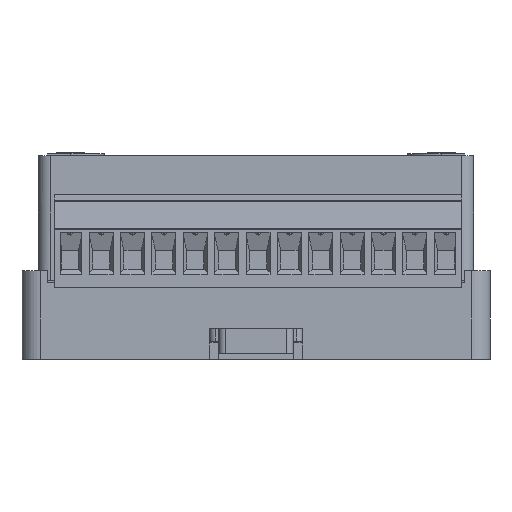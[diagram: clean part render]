
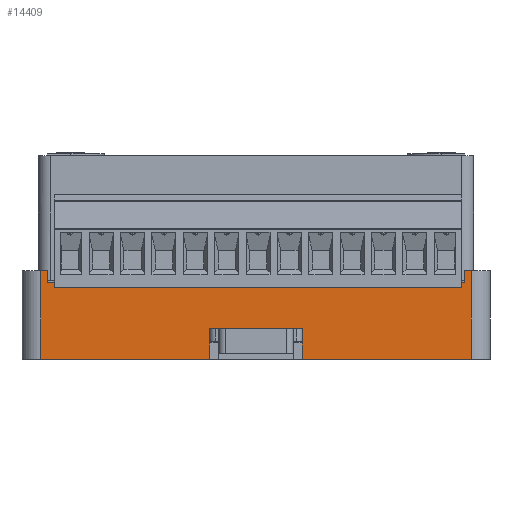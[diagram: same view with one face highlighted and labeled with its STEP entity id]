
A CAD part, front view. The second image highlights one B-rep face of the part: STEP entity #14409.
In plain terms, the highlighted planar face has unit normal (0, -1, 0).
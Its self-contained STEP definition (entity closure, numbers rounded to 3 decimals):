
#14409=ADVANCED_FACE('',(#73051),#73053,.F.);
#73051=FACE_BOUND('',#73052,.T.);
#73052=EDGE_LOOP('',(#116315,#116316,#116317,#116318,#116319,#116320,#116321,#116322,
#116323,#116324,#116325,#116326,#116327,#116328,#116329,#116330));
#73053=PLANE('',#73054);
#73054=AXIS2_PLACEMENT_3D('',#73055,#73056,#73057);
#73055=CARTESIAN_POINT('',(-37.9,-51.95,14.4));
#73056=DIRECTION('',(0.,1.,0.));
#73057=DIRECTION('',(0.,0.,1.));
#116315=ORIENTED_EDGE('',*,*,#159662,.F.);
#116316=ORIENTED_EDGE('',*,*,#159663,.F.);
#116317=ORIENTED_EDGE('',*,*,#159664,.T.);
#116318=ORIENTED_EDGE('',*,*,#159665,.T.);
#116319=ORIENTED_EDGE('',*,*,#159666,.T.);
#116320=ORIENTED_EDGE('',*,*,#159065,.F.);
#116321=ORIENTED_EDGE('',*,*,#159097,.T.);
#116322=ORIENTED_EDGE('',*,*,#159095,.F.);
#116323=ORIENTED_EDGE('',*,*,#159094,.T.);
#116324=ORIENTED_EDGE('',*,*,#159081,.F.);
#116325=ORIENTED_EDGE('',*,*,#159667,.T.);
#116326=ORIENTED_EDGE('',*,*,#159668,.T.);
#116327=ORIENTED_EDGE('',*,*,#159669,.F.);
#116328=ORIENTED_EDGE('',*,*,#159670,.F.);
#116329=ORIENTED_EDGE('',*,*,#159671,.F.);
#116330=ORIENTED_EDGE('',*,*,#159101,.F.);
#159065=EDGE_CURVE('',#179888,#179890,#179891,.T.);
#159081=EDGE_CURVE('',#179917,#179909,#179919,.T.);
#159094=EDGE_CURVE('',#179937,#179909,#179939,.T.);
#159095=EDGE_CURVE('',#179937,#179940,#179941,.T.);
#159097=EDGE_CURVE('',#179888,#179940,#179943,.T.);
#159101=EDGE_CURVE('',#179947,#179949,#179950,.T.);
#159662=EDGE_CURVE('',#180860,#179947,#180861,.T.);
#159663=EDGE_CURVE('',#180862,#180860,#180863,.T.);
#159664=EDGE_CURVE('',#180862,#180864,#180865,.T.);
#159665=EDGE_CURVE('',#180864,#180866,#180867,.T.);
#159666=EDGE_CURVE('',#180866,#179890,#180868,.T.);
#159667=EDGE_CURVE('',#179917,#180869,#180870,.T.);
#159668=EDGE_CURVE('',#180869,#180871,#180872,.T.);
#159669=EDGE_CURVE('',#180873,#180871,#180874,.T.);
#159670=EDGE_CURVE('',#180875,#180873,#180876,.T.);
#159671=EDGE_CURVE('',#179949,#180875,#180877,.T.);
#179888=VERTEX_POINT('',#228161);
#179890=VERTEX_POINT('',#228165);
#179891=LINE('',#228166,#228167);
#179909=VERTEX_POINT('',#228208);
#179917=VERTEX_POINT('',#228225);
#179919=LINE('',#228230,#228231);
#179937=VERTEX_POINT('',#228272);
#179939=LINE('',#228276,#228277);
#179940=VERTEX_POINT('',#228279);
#179941=LINE('',#228280,#228281);
#179943=LINE('',#228286,#228287);
#179947=VERTEX_POINT('',#228296);
#179949=VERTEX_POINT('',#228300);
#179950=LINE('',#228301,#228302);
#180860=VERTEX_POINT('',#234268);
#180861=LINE('',#234269,#234270);
#180862=VERTEX_POINT('',#234272);
#180863=LINE('',#234273,#234274);
#180864=VERTEX_POINT('',#234276);
#180865=LINE('',#234277,#234278);
#180866=VERTEX_POINT('',#234280);
#180867=LINE('',#234281,#234282);
#180868=LINE('',#234284,#234285);
#180869=VERTEX_POINT('',#234287);
#180870=LINE('',#234288,#234289);
#180871=VERTEX_POINT('',#234291);
#180872=LINE('',#234292,#234293);
#180873=VERTEX_POINT('',#234295);
#180874=LINE('',#234296,#234297);
#180875=VERTEX_POINT('',#234299);
#180876=LINE('',#234300,#234301);
#180877=LINE('',#234303,#234304);
#228161=CARTESIAN_POINT('',(33.85,-51.95,14.4));
#228165=CARTESIAN_POINT('',(34.9,-51.95,14.4));
#228166=CARTESIAN_POINT('',(33.85,-51.95,14.4));
#228167=VECTOR('',#228168,1.);
#228168=DIRECTION('',(1.,0.,0.));
#228208=CARTESIAN_POINT('',(-33.85,-51.95,14.4));
#228225=CARTESIAN_POINT('',(-34.9,-51.95,14.4));
#228230=CARTESIAN_POINT('',(-34.9,-51.95,14.4));
#228231=VECTOR('',#228232,1.);
#228232=DIRECTION('',(1.,0.,0.));
#228272=CARTESIAN_POINT('',(-33.85,-51.95,12.4));
#228276=CARTESIAN_POINT('',(-33.85,-51.95,12.4));
#228277=VECTOR('',#228278,1.);
#228278=DIRECTION('',(0.,0.,1.));
#228279=CARTESIAN_POINT('',(33.85,-51.95,12.4));
#228280=CARTESIAN_POINT('',(-33.85,-51.95,12.4));
#228281=VECTOR('',#228282,1.);
#228282=DIRECTION('',(1.,0.,0.));
#228286=CARTESIAN_POINT('',(33.85,-51.95,14.4));
#228287=VECTOR('',#228288,1.);
#228288=DIRECTION('',(0.,0.,-1.));
#228296=CARTESIAN_POINT('',(4.,-51.95,5.));
#228300=CARTESIAN_POINT('',(-4.,-51.95,5.));
#228301=CARTESIAN_POINT('',(4.,-51.95,5.));
#228302=VECTOR('',#228303,1.);
#228303=DIRECTION('',(-1.,0.,0.));
#234268=CARTESIAN_POINT('',(6.936,-51.95,5.));
#234269=CARTESIAN_POINT('',(6.936,-51.95,5.));
#234270=VECTOR('',#234271,1.);
#234271=DIRECTION('',(-1.,0.,0.));
#234272=CARTESIAN_POINT('',(7.5,-51.95,5.));
#234273=CARTESIAN_POINT('',(7.5,-51.95,5.));
#234274=VECTOR('',#234275,1.);
#234275=DIRECTION('',(-1.,0.,0.));
#234276=CARTESIAN_POINT('',(7.5,-51.95,0.));
#234277=CARTESIAN_POINT('',(7.5,-51.95,5.));
#234278=VECTOR('',#234279,1.);
#234279=DIRECTION('',(0.,0.,-1.));
#234280=CARTESIAN_POINT('',(34.9,-51.95,0.));
#234281=CARTESIAN_POINT('',(7.5,-51.95,0.));
#234282=VECTOR('',#234283,1.);
#234283=DIRECTION('',(1.,0.,0.));
#234284=CARTESIAN_POINT('',(34.9,-51.95,0.));
#234285=VECTOR('',#234286,1.);
#234286=DIRECTION('',(0.,0.,1.));
#234287=CARTESIAN_POINT('',(-34.9,-51.95,0.));
#234288=CARTESIAN_POINT('',(-34.9,-51.95,14.4));
#234289=VECTOR('',#234290,1.);
#234290=DIRECTION('',(0.,0.,-1.));
#234291=CARTESIAN_POINT('',(-7.5,-51.95,0.));
#234292=CARTESIAN_POINT('',(-34.9,-51.95,0.));
#234293=VECTOR('',#234294,1.);
#234294=DIRECTION('',(1.,0.,0.));
#234295=CARTESIAN_POINT('',(-7.5,-51.95,5.));
#234296=CARTESIAN_POINT('',(-7.5,-51.95,5.));
#234297=VECTOR('',#234298,1.);
#234298=DIRECTION('',(0.,0.,-1.));
#234299=CARTESIAN_POINT('',(-6.936,-51.95,5.));
#234300=CARTESIAN_POINT('',(-6.936,-51.95,5.));
#234301=VECTOR('',#234302,1.);
#234302=DIRECTION('',(-1.,0.,0.));
#234303=CARTESIAN_POINT('',(-4.,-51.95,5.));
#234304=VECTOR('',#234305,1.);
#234305=DIRECTION('',(-1.,0.,0.));
